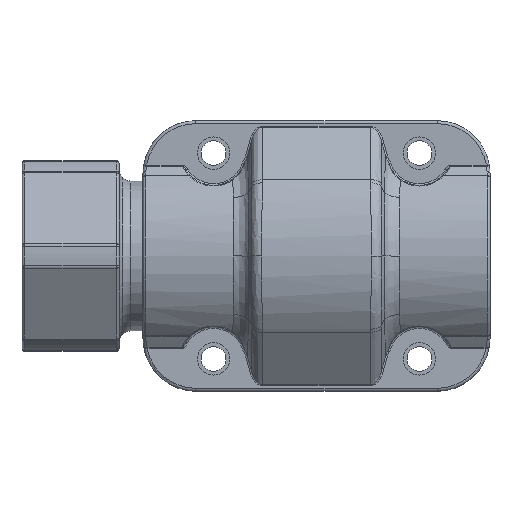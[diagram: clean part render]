
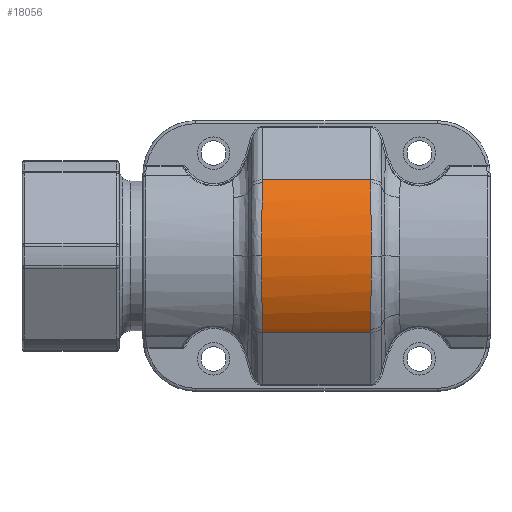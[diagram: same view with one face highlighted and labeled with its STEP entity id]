
A CAD part, front view. The second image highlights one B-rep face of the part: STEP entity #18056.
In plain terms, the highlighted cylindrical face has radius 21.9 mm (diameter 43.8 mm), a partial arc.
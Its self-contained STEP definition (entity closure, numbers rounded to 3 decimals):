
#12896=CARTESIAN_POINT('',(-9.259,12.982,
-17.638));
#12901=CARTESIAN_POINT('',(9.259,12.982,
-17.638));
#13644=CARTESIAN_POINT('',(9.256,12.445,
-18.02));
#13645=CARTESIAN_POINT('',(9.258,11.719,
-18.522));
#13646=CARTESIAN_POINT('',(9.262,10.206,
-19.437));
#13647=CARTESIAN_POINT('',(9.266,7.788,
-20.526));
#13648=CARTESIAN_POINT('',(9.269,5.256,
-21.315));
#13649=CARTESIAN_POINT('',(9.271,2.647,
-21.793));
#13650=CARTESIAN_POINT('',(9.272,0.882,
-21.9));
#13651=CARTESIAN_POINT('',(9.272,0.,
-21.9));
#13677=DIRECTION('',(1.,0.,0.));
#13678=VECTOR('',#13677,18.517);
#13679=CARTESIAN_POINT('',(-9.259,-12.982,
-17.638));
#13680=LINE('',#13679,#13678);
#13684=DIRECTION('',(-1.,0.,0.));
#13685=VECTOR('',#13684,18.517);
#13686=CARTESIAN_POINT('',(9.259,12.982,
-17.638));
#13687=LINE('',#13686,#13685);
#13691=CARTESIAN_POINT('',(-9.256,12.446,
-18.019));
#13692=CARTESIAN_POINT('',(-9.256,12.505,
-17.979));
#13693=CARTESIAN_POINT('',(-9.257,12.622,
-17.897));
#13694=CARTESIAN_POINT('',(-9.256,12.801,
-17.769));
#13695=CARTESIAN_POINT('',(-9.258,12.921,
-17.682));
#13696=CARTESIAN_POINT('',(-9.259,12.982,
-17.638));
#13710=CARTESIAN_POINT('',(-9.272,0.,
-21.9));
#13711=CARTESIAN_POINT('',(-9.272,0.883,-21.9));
#13712=CARTESIAN_POINT('',(-9.271,2.648,
-21.793));
#13713=CARTESIAN_POINT('',(-9.269,5.257,
-21.315));
#13714=CARTESIAN_POINT('',(-9.266,7.789,
-20.525));
#13715=CARTESIAN_POINT('',(-9.262,10.207,
-19.436));
#13716=CARTESIAN_POINT('',(-9.258,11.72,
-18.521));
#13717=CARTESIAN_POINT('',(-9.256,12.446,
-18.019));
#14594=CARTESIAN_POINT('',(9.272,0.,
-21.9));
#14595=CARTESIAN_POINT('',(9.272,-0.883,
-21.9));
#14596=CARTESIAN_POINT('',(9.271,-2.648,
-21.793));
#14597=CARTESIAN_POINT('',(9.269,-5.257,
-21.315));
#14598=CARTESIAN_POINT('',(9.266,-7.789,
-20.525));
#14599=CARTESIAN_POINT('',(9.262,-10.207,
-19.436));
#14600=CARTESIAN_POINT('',(9.258,-11.72,
-18.521));
#14601=CARTESIAN_POINT('',(9.256,-12.446,
-18.019));
#14629=CARTESIAN_POINT('',(9.256,-12.446,
-18.019));
#14630=CARTESIAN_POINT('',(9.256,-12.505,
-17.979));
#14631=CARTESIAN_POINT('',(9.257,-12.622,
-17.897));
#14632=CARTESIAN_POINT('',(9.256,-12.801,
-17.769));
#14633=CARTESIAN_POINT('',(9.258,-12.921,
-17.682));
#14634=CARTESIAN_POINT('',(9.259,-12.982,
-17.638));
#14791=CARTESIAN_POINT('',(-9.259,-12.982,
-17.638));
#14792=CARTESIAN_POINT('',(-9.258,-12.923,
-17.681));
#14793=CARTESIAN_POINT('',(-9.256,-12.804,
-17.767));
#14794=CARTESIAN_POINT('',(-9.257,-12.626,
-17.895));
#14795=CARTESIAN_POINT('',(-9.256,-12.506,
-17.979));
#14796=CARTESIAN_POINT('',(-9.256,-12.445,
-18.02));
#14810=CARTESIAN_POINT('',(-9.256,-12.445,
-18.02));
#14811=CARTESIAN_POINT('',(-9.258,-11.719,
-18.522));
#14812=CARTESIAN_POINT('',(-9.262,-10.206,
-19.437));
#14813=CARTESIAN_POINT('',(-9.266,-7.788,
-20.526));
#14814=CARTESIAN_POINT('',(-9.269,-5.256,
-21.315));
#14815=CARTESIAN_POINT('',(-9.271,-2.647,
-21.793));
#14816=CARTESIAN_POINT('',(-9.272,-0.882,
-21.9));
#14817=CARTESIAN_POINT('',(-9.272,0.,
-21.9));
#15384=CARTESIAN_POINT('',(9.259,12.982,
-17.638));
#15385=CARTESIAN_POINT('',(9.258,12.923,
-17.681));
#15386=CARTESIAN_POINT('',(9.256,12.804,
-17.767));
#15387=CARTESIAN_POINT('',(9.257,12.626,
-17.895));
#15388=CARTESIAN_POINT('',(9.256,12.506,
-17.979));
#15389=CARTESIAN_POINT('',(9.256,12.445,
-18.02));
#15567=VERTEX_POINT('',#12901);
#15568=VERTEX_POINT('',#12896);
#15661=VERTEX_POINT('',#13644);
#15662=VERTEX_POINT('',#13651);
#15663=VERTEX_POINT('',#13691);
#15664=VERTEX_POINT('',#13710);
#15665=VERTEX_POINT('',#14810);
#15666=VERTEX_POINT('',#14791);
#15667=CARTESIAN_POINT('',(9.259,-12.982,
-17.638));
#15668=VERTEX_POINT('',#15667);
#15669=VERTEX_POINT('',#14629);
#18031=CARTESIAN_POINT('',(-29.5,0.,0.));
#18032=DIRECTION('',(-1.,0.,0.));
#18033=DIRECTION('',(0.,0.,-1.));
#18034=AXIS2_PLACEMENT_3D('',#18031,#18032,#18033);
#18035=CYLINDRICAL_SURFACE('',#18034,21.9);
#18037=ORIENTED_EDGE('',*,*,#18036,.F.);
#18039=ORIENTED_EDGE('',*,*,#18038,.F.);
#18041=ORIENTED_EDGE('',*,*,#18040,.F.);
#18043=ORIENTED_EDGE('',*,*,#18042,.F.);
#18045=ORIENTED_EDGE('',*,*,#18044,.T.);
#18047=ORIENTED_EDGE('',*,*,#18046,.F.);
#18049=ORIENTED_EDGE('',*,*,#18048,.F.);
#18050=ORIENTED_EDGE('',*,*,#18021,.F.);
#18052=ORIENTED_EDGE('',*,*,#18051,.F.);
#18053=ORIENTED_EDGE('',*,*,#16780,.T.);
#18054=EDGE_LOOP('',(#18037,#18039,#18041,#18043,#18045,#18047,#18049,#18050,
#18052,#18053));
#18055=FACE_OUTER_BOUND('',#18054,.F.);
#13652=B_SPLINE_CURVE_WITH_KNOTS('',3,(#13644,#13645,#13646,#13647,#13648,
#13649,#13650,#13651),.UNSPECIFIED.,.F.,.F.,(4,1,1,1,1,4),(0.,0.2,0.4,
0.6,0.8,1.),.UNSPECIFIED.);
#13697=B_SPLINE_CURVE_WITH_KNOTS('',3,(#13691,#13692,#13693,#13694,#13695,
#13696),.UNSPECIFIED.,.F.,.F.,(4,1,1,4),(0.,0.333,
0.667,1.),.UNSPECIFIED.);
#13718=B_SPLINE_CURVE_WITH_KNOTS('',3,(#13710,#13711,#13712,#13713,#13714,
#13715,#13716,#13717),.UNSPECIFIED.,.F.,.F.,(4,1,1,1,1,4),(0.,0.2,0.4,
0.6,0.8,1.),.UNSPECIFIED.);
#14602=B_SPLINE_CURVE_WITH_KNOTS('',3,(#14594,#14595,#14596,#14597,#14598,
#14599,#14600,#14601),.UNSPECIFIED.,.F.,.F.,(4,1,1,1,1,4),(0.,0.2,0.4,
0.6,0.8,1.),.UNSPECIFIED.);
#14635=B_SPLINE_CURVE_WITH_KNOTS('',3,(#14629,#14630,#14631,#14632,#14633,
#14634),.UNSPECIFIED.,.F.,.F.,(4,1,1,4),(0.,0.333,
0.667,1.),.UNSPECIFIED.);
#14797=B_SPLINE_CURVE_WITH_KNOTS('',3,(#14791,#14792,#14793,#14794,#14795,
#14796),.UNSPECIFIED.,.F.,.F.,(4,1,1,4),(0.,0.333,
0.667,1.),.UNSPECIFIED.);
#14818=B_SPLINE_CURVE_WITH_KNOTS('',3,(#14810,#14811,#14812,#14813,#14814,
#14815,#14816,#14817),.UNSPECIFIED.,.F.,.F.,(4,1,1,1,1,4),(0.,0.2,0.4,
0.6,0.8,1.),.UNSPECIFIED.);
#15390=B_SPLINE_CURVE_WITH_KNOTS('',3,(#15384,#15385,#15386,#15387,#15388,
#15389),.UNSPECIFIED.,.F.,.F.,(4,1,1,4),(0.,0.333,
0.667,1.),.UNSPECIFIED.);
#16780=EDGE_CURVE('',#15567,#15568,#13687,.T.);
#18021=EDGE_CURVE('',#15661,#15662,#13652,.T.);
#18036=EDGE_CURVE('',#15663,#15568,#13697,.T.);
#18038=EDGE_CURVE('',#15664,#15663,#13718,.T.);
#18040=EDGE_CURVE('',#15665,#15664,#14818,.T.);
#18042=EDGE_CURVE('',#15666,#15665,#14797,.T.);
#18044=EDGE_CURVE('',#15666,#15668,#13680,.T.);
#18046=EDGE_CURVE('',#15669,#15668,#14635,.T.);
#18048=EDGE_CURVE('',#15662,#15669,#14602,.T.);
#18051=EDGE_CURVE('',#15567,#15661,#15390,.T.);
#18056=ADVANCED_FACE('',(#18055),#18035,.T.);
